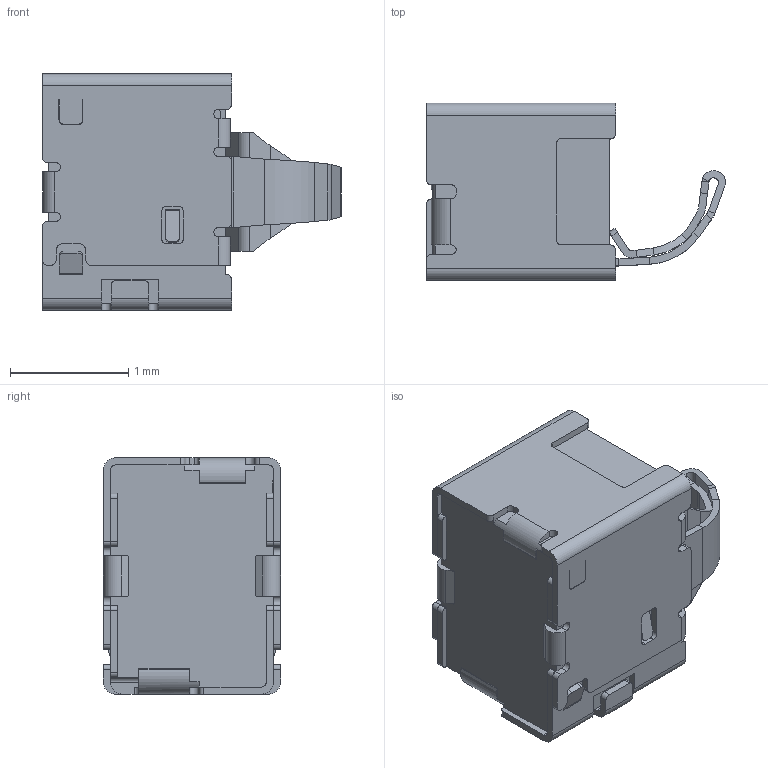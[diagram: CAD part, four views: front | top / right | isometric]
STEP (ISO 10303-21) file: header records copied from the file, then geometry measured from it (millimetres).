
FILE_DESCRIPTION((''),'2;1');
FILE_NAME('3D-2014030-NA-00_ASM','2022-04-25T',('TPS'),(''),'CREO PARAMETRIC BY PTC INC, 2015290','CREO PARAMETRIC BY PTC INC, 2015290','');
FILE_SCHEMA(('CONFIG_CONTROL_DESIGN'));
Products named in the file (2): 3D-2014030-NA-00; 3D-2014030-NA-00_ASM
Assembly tree (1 placements, depth 2):
  3D-2014030-NA-00_ASM
    3D-2014030-NA-00
Bounding box: 2.53 x 1.5 x 2 mm (x, y, z)
Volume: 4.4 mm3; surface area: 29.3 mm2
Topology: 1 solids, 1 shells, 388 faces, 1139 edges, 744 vertices
Faces by surface type: plane 225, cylinder 155, bspline 8
Entity records: 13229 total; most frequent: CARTESIAN_POINT 2664, ORIENTED_EDGE 2278, DIRECTION 2147, EDGE_CURVE 1139, VECTOR 803, LINE 803, VERTEX_POINT 744, AXIS2_PLACEMENT_3D 672
